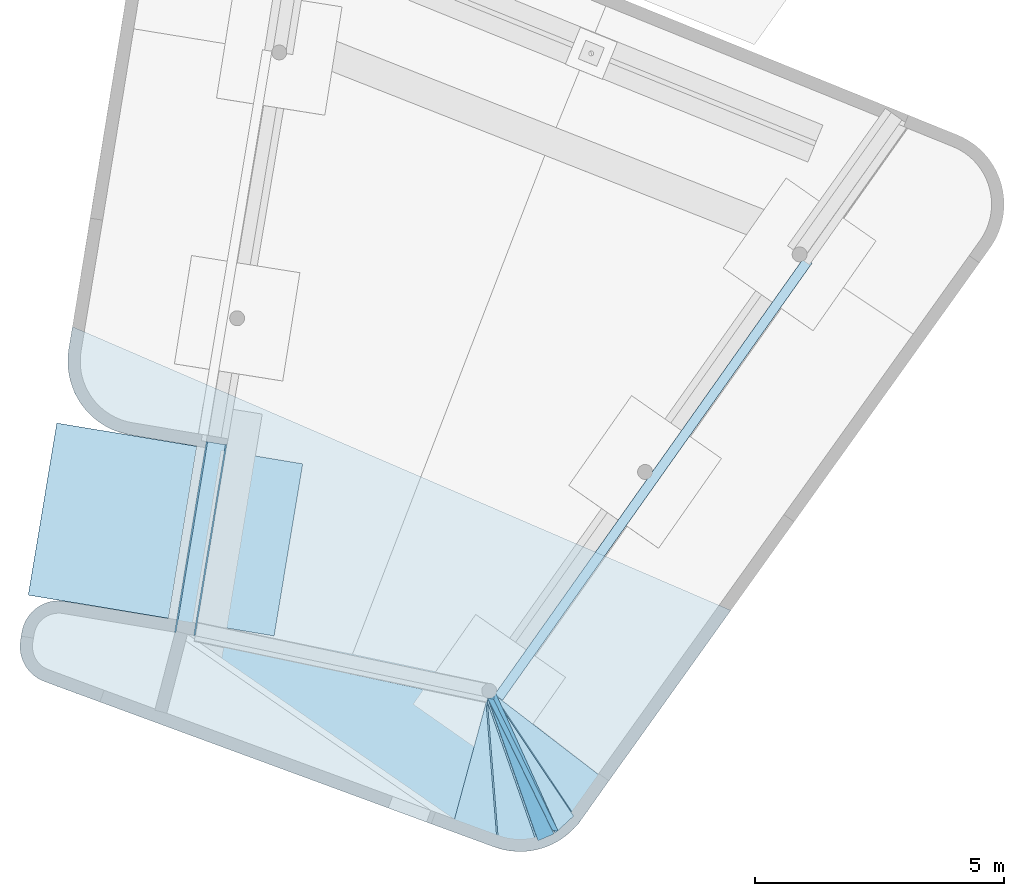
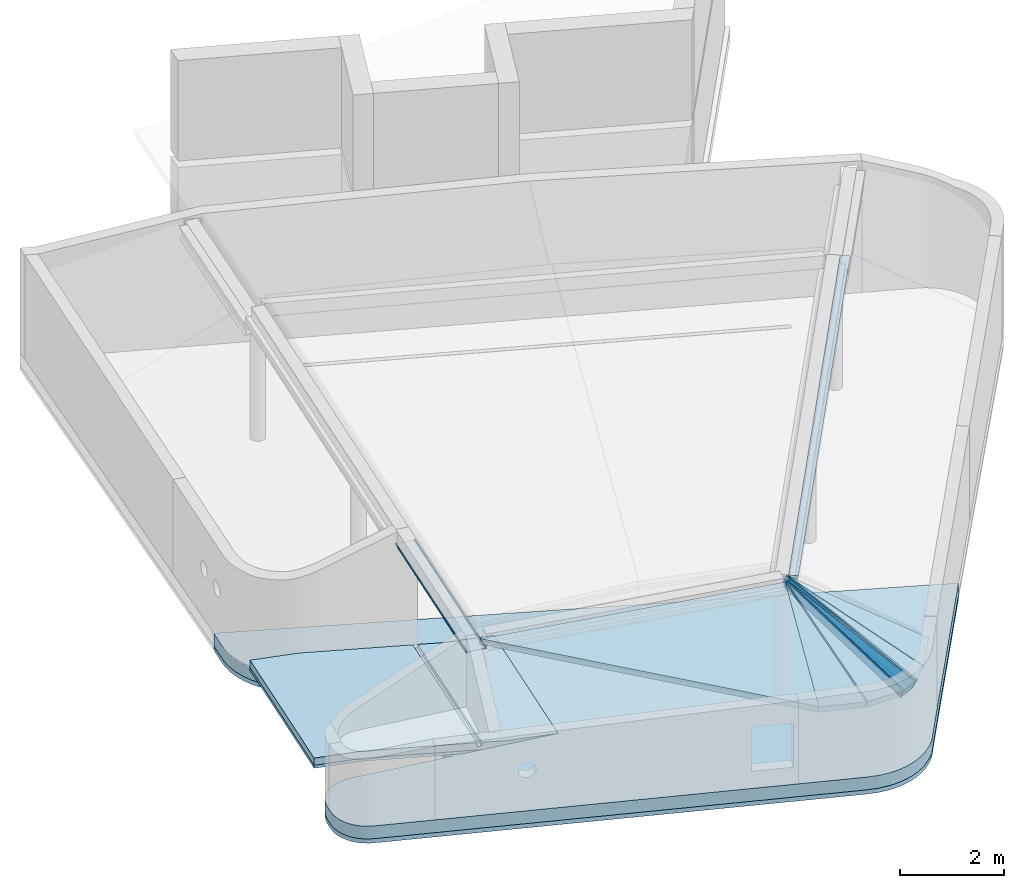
# One storey, part 3 of 8: 9 slabs, 6 plates.
"""IFC2X3 building model written with IfcOpenShell, lengths in millimetres."""

from ifc_helpers import new_model, si_unit, frame, origin_with_axes, place, context, subcontext, project, spatial, faceted_brep, material, type_object, element, save


model = new_model("IFC2X3")

# Units and contexts
model_context = context("Model", 3, precision=1e-05, world=origin_with_axes())
body_context = subcontext(model_context, "Body", "Model", "MODEL_VIEW")
ifc_project = project(units=[si_unit("LENGTHUNIT", "METRE", prefix="MILLI"), si_unit("AREAUNIT", "SQUARE_METRE"), si_unit("VOLUMEUNIT", "CUBIC_METRE"), si_unit("MASSUNIT", "GRAM", prefix="KILO"), si_unit("TIMEUNIT", "SECOND"), si_unit("PLANEANGLEUNIT", "RADIAN"), si_unit("SOLIDANGLEUNIT", "STERADIAN"), si_unit("THERMODYNAMICTEMPERATUREUNIT", "DEGREE_CELSIUS"), si_unit("LUMINOUSINTENSITYUNIT", "LUMEN")], contexts=[model_context])

# Site, building, storey
site_placement = place(None, origin_with_axes())
site = spatial("IfcSite", under=ifc_project, at=site_placement, Name="Site", CompositionType="ELEMENT")
building_placement = place(site_placement, origin_with_axes())
building = spatial("IfcBuilding", under=site, at=building_placement, Name="Undefined", CompositionType="ELEMENT")
storey_placement = place(building_placement, origin_with_axes())
storey = spatial("IfcBuildingStorey", under=building, at=storey_placement, Name="Undefined", CompositionType="ELEMENT", Elevation=0.0)

# Plate
ifc_material_1 = material(Name="MISCELLANEOUS/XPS")
plate_type_1 = type_object("IfcPlateType", Name="100*6761", PredefinedType="NOTDEFINED")
plate_1_placement = place(storey_placement, frame((38155.5776177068, 41014.9212579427, 36500.0), z_axis=(0.345299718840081, 0.938492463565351, 0.0), x_axis=(0.938492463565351, -0.34529971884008, 0.0)))
element("IfcPlate", 1, at=plate_1_placement, inside=storey, type_object=plate_type_1, material=ifc_material_1, Name="ISOLASJON", ObjectType="100*6761", context=body_context, shape_type="Brep", body=[
    faceted_brep([(-7.27595761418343e-12, -50.0, -7.27595761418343e-12), (-163.341674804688, -50.0, 4.32671833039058), (-163.341674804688, 50.0, 4.32671833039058), (-7.27595761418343e-12, 50.0, -7.27595761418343e-12), (-199.946350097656, -50.0, 9.8084659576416), (-199.946350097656, 50.0, 9.8084659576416), (-272.437042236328, -50.0, 24.3537750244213), (-272.437042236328, 50.0, 24.3537750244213), (-299.627868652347, -50.0, 31.2212467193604), (-299.627868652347, 50.0, 31.2212467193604), (-343.140716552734, -50.0, 45.9744186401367), (-343.140716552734, 50.0, 45.9744186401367), (-377.958404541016, -50.0, 58.5314979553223), (-377.958404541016, 50.0, 58.5314979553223), (-411.368621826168, -50.0, 74.459770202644), (-411.368621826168, 50.0, 74.459770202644), (-466.586212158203, -50.0, 103.567413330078), (-466.586212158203, 50.0, 103.567413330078), (-492.261535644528, -50.0, 119.084411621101), (-492.261535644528, 50.0, 119.084411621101), (-530.056518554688, -50.0, 145.079803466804), (-530.056518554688, 50.0, 145.079803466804), (-554.0771484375, -50.0, 163.052307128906), (-554.0771484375, 50.0, 163.052307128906), (-581.900695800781, -50.0, 186.289489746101), (-581.900695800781, 50.0, 186.289489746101), (-609.206115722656, -50.0, 211.276794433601), (-609.206115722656, 50.0, 211.276794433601), (-636.755981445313, -50.0, 239.43826293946), (-636.755981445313, 50.0, 239.43826293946), (-663.459289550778, -50.0, 269.219665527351), (-663.459289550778, 50.0, 269.219665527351), (-680.168701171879, -50.0, 290.03787231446), (-680.168701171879, 50.0, 290.03787231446), (-703.806091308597, -50.0, 322.306640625), (-703.806091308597, 50.0, 322.306640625), (-734.000488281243, -50.0, 369.701324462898), (-734.000488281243, 50.0, 369.701324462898), (-758.72985839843, -50.0, 414.292144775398), (-758.72985839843, 50.0, 414.292144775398), (-784.0, -50.0, 468.71105957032), (-784.0, 50.0, 468.71105957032), (-808.406860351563, -50.0, 538.597534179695), (-808.406860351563, 50.0, 538.597534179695), (-833.75531005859, -50.0, 652.364257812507), (-833.75531005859, 50.0, 652.364257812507), (-841.705383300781, -50.0, 694.178955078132), (-841.705383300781, 50.0, 694.178955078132), (-862.676818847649, -50.0, 814.150268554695), (-862.676818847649, 50.0, 814.150268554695), (-870.757019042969, -50.0, 924.137878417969), (-870.757019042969, 50.0, 924.137878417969), (-860.8154296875, -50.0, 1033.97290039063), (-860.8154296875, 50.0, 1033.97290039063), (-836.62005615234, -50.0, 1141.56994628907), (-836.62005615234, 50.0, 1141.56994628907), (-795.22314453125, -50.0, 1243.78967285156), (-795.22314453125, 50.0, 1243.78967285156), (-740.835815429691, -50.0, 1339.73022460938), (-740.835815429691, 50.0, 1339.73022460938), (-699.612792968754, -50.0, 1394.34045410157), (-699.612792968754, 50.0, 1394.34045410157), (-619.12896728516, -50.0, 1477.07080078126), (-619.12896728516, 50.0, 1477.07080078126), (-532.166748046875, -50.0, 1544.89514160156), (-532.166748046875, 50.0, 1544.89514160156), (-468.718566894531, -50.0, 1582.19799804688), (-468.718566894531, 50.0, 1582.19799804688), (-391.407928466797, -50.0, 1616.76330566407), (-391.407928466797, 50.0, 1616.76330566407), (-306.389129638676, -50.0, 1643.59289550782), (-306.389129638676, 50.0, 1643.59289550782), (1801.06469726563, -50.0, 2046.60803222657), (1801.06469726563, 50.0, 2046.60803222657), (1140.45141601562, -50.0, 5485.40039062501), (1140.45141601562, 50.0, 5485.40039062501), (-186.642105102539, -50.0, 5236.67431640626), (-186.642105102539, 50.0, 5236.67431640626), (-502.679016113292, -50.0, 5211.41064453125), (-502.679016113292, 50.0, 5211.41064453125), (-609.311401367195, -50.0, 5218.18115234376), (-609.311401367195, 50.0, 5218.18115234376), (-715.191284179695, -50.0, 5232.52587890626), (-715.191284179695, 50.0, 5232.52587890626), (-819.781372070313, -50.0, 5254.37109375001), (-819.781372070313, 50.0, 5254.37109375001), (-972.765014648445, -50.0, 5301.8447265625), (-972.765014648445, 50.0, 5301.8447265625), (-1071.76721191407, -50.0, 5341.849609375), (-1071.76721191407, 50.0, 5341.849609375), (-1214.78527832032, -50.0, 5413.98535156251), (-1214.78527832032, 50.0, 5413.98535156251), (-1348.25146484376, -50.0, 5502.55468750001), (-1348.25146484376, 50.0, 5502.55468750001), (-1391.31237792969, -50.0, 5534.17480468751), (-1391.31237792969, 50.0, 5534.17480468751), (-1505.21350097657, -50.0, 5631.90380859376), (-1505.21350097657, 50.0, 5631.90380859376), (-1628.1298828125, -50.0, 5769.27783203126), (-1628.1298828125, 50.0, 5769.27783203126), (-1743.25891113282, -50.0, 5932.49072265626), (-1743.25891113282, 50.0, 5932.49072265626), (-1818.10473632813, -50.0, 6074.109375), (-1818.10473632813, 50.0, 6074.109375), (-1859.98767089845, -50.0, 6172.33154296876), (-1859.98767089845, 50.0, 6172.33154296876), (-1894.7723388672, -50.0, 6273.28662109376), (-1894.7723388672, 50.0, 6273.28662109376), (-1916.25646972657, -50.0, 6350.12792968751), (-1916.25646972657, 50.0, 6350.12792968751), (-1934.19848632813, -50.0, 6428.53857421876), (-1934.19848632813, 50.0, 6428.53857421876), (-1953.01794433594, -50.0, 6526.75195312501), (-1953.01794433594, 50.0, 6526.75195312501), (-1973.71936035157, -50.0, 6634.78662109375), (-1973.71936035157, 50.0, 6634.78662109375), (-2001.94860839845, -50.0, 6782.1064453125), (-2001.94860839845, 50.0, 6782.1064453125), (-2019.97338867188, -50.0, 6876.18896484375), (-2019.97338867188, 50.0, 6876.18896484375), (12342.552734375, -50.0, 6097.06982421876), (12342.552734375, 50.0, 6097.06982421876), (11227.26171875, -50.0, 2040.97021484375), (11227.26171875, 50.0, 2040.97021484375), (10943.5146484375, -50.0, 997.724304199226), (10943.5146484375, 50.0, 997.724304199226), (10869.1162109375, -50.0, 835.118225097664), (10869.1162109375, 50.0, 835.118225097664), (10739.6298828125, -50.0, 619.394165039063), (10739.6298828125, 50.0, 619.394165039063), (10657.4736328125, -50.0, 517.097595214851), (10657.4736328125, 50.0, 517.097595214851), (10554.814453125, -50.0, 410.59402465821), (10554.814453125, 50.0, 410.59402465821), (10437.0244140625, -50.0, 309.155700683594), (10437.0244140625, 50.0, 309.155700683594), (10301.8408203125, -50.0, 218.157852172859), (10301.8408203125, 50.0, 218.157852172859), (10158.5078125, -50.0, 140.634307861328), (10158.5078125, 50.0, 140.634307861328), (9990.865234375, -50.0, 75.5163955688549), (9990.865234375, 50.0, 75.5163955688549), (9743.28515625, -50.0, 16.5120201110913), (9743.28515625, 50.0, 16.5120201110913), (9494.451171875, -50.0, 0.645655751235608), (9494.451171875, 50.0, 0.645655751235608), (8178.80468750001, -50.0, -1.72440195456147e-09), (8178.80468750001, 50.0, -1.72440195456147e-09)], [[[0, 1, 2, 3]], [[1, 4, 5, 2]], [[4, 6, 7, 5]], [[6, 8, 9, 7]], [[8, 10, 11, 9]], [[10, 12, 13, 11]], [[12, 14, 15, 13]], [[14, 16, 17, 15]], [[16, 18, 19, 17]], [[18, 20, 21, 19]], [[20, 22, 23, 21]], [[22, 24, 25, 23]], [[24, 26, 27, 25]], [[26, 28, 29, 27]], [[28, 30, 31, 29]], [[30, 32, 33, 31]], [[32, 34, 35, 33]], [[34, 36, 37, 35]], [[36, 38, 39, 37]], [[38, 40, 41, 39]], [[40, 42, 43, 41]], [[42, 44, 45, 43]], [[44, 46, 47, 45]], [[46, 48, 49, 47]], [[48, 50, 51, 49]], [[50, 52, 53, 51]], [[52, 54, 55, 53]], [[54, 56, 57, 55]], [[56, 58, 59, 57]], [[58, 60, 61, 59]], [[60, 62, 63, 61]], [[62, 64, 65, 63]], [[64, 66, 67, 65]], [[66, 68, 69, 67]], [[68, 70, 71, 69]], [[70, 72, 73, 71]], [[72, 74, 75, 73]], [[74, 76, 77, 75]], [[76, 78, 79, 77]], [[78, 80, 81, 79]], [[80, 82, 83, 81]], [[82, 84, 85, 83]], [[84, 86, 87, 85]], [[86, 88, 89, 87]], [[88, 90, 91, 89]], [[90, 92, 93, 91]], [[92, 94, 95, 93]], [[94, 96, 97, 95]], [[96, 98, 99, 97]], [[98, 100, 101, 99]], [[100, 102, 103, 101]], [[102, 104, 105, 103]], [[104, 106, 107, 105]], [[106, 108, 109, 107]], [[108, 110, 111, 109]], [[110, 112, 113, 111]], [[112, 114, 115, 113]], [[114, 116, 117, 115]], [[116, 118, 119, 117]], [[118, 120, 121, 119]], [[120, 122, 123, 121]], [[122, 124, 125, 123]], [[124, 126, 127, 125]], [[126, 128, 129, 127]], [[128, 130, 131, 129]], [[130, 132, 133, 131]], [[132, 134, 135, 133]], [[134, 136, 137, 135]], [[136, 138, 139, 137]], [[138, 140, 141, 139]], [[140, 142, 143, 141]], [[142, 144, 145, 143]], [[144, 146, 147, 145]], [[146, 0, 3, 147]], [[5, 7, 9, 11, 13, 15, 17, 19, 21, 23, 25, 27, 29, 31, 33, 35, 37, 39, 41, 43, 45, 47, 49, 51, 53, 55, 57, 59, 61, 63, 65, 67, 69, 71, 73, 75, 77, 79, 81, 83, 85, 87, 89, 91, 93, 95, 97, 99, 101, 103, 105, 107, 109, 111, 113, 115, 117, 119, 121, 123, 125, 127, 129, 131, 133, 135, 137, 139, 141, 143, 145, 147, 3, 2]], [[146, 144, 142, 140, 138, 136, 134, 132, 130, 128, 126, 124, 122, 120, 118, 116, 114, 112, 110, 108, 106, 104, 102, 100, 98, 96, 94, 92, 90, 88, 86, 84, 82, 80, 78, 76, 74, 72, 70, 68, 66, 64, 62, 60, 58, 56, 54, 52, 50, 48, 46, 44, 42, 40, 38, 36, 34, 32, 30, 28, 26, 24, 22, 20, 18, 16, 14, 12, 10, 8, 6, 4, 1, 0]]]),
])

# Slab
ifc_material_2 = material(Name="CONCRETE/C45/55")
slab_type_1 = type_object("IfcSlabType", Name="300*6761", PredefinedType="NOTDEFINED")
slab_1_placement = place(storey_placement, frame((38155.5776177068, 41014.9212579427, 36700.0), z_axis=(0.345299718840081, 0.938492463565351, 0.0), x_axis=(0.938492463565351, -0.34529971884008, 0.0)))
element("IfcSlab", 2, at=slab_1_placement, inside=storey, type_object=slab_type_1, material=ifc_material_2, Name="PLASSTØPTFUNDAMENT", ObjectType="300*6761", PredefinedType="FLOOR", context=body_context, shape_type="Brep", body=[
    faceted_brep([(7.27595761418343e-12, -150.0, 7.27595761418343e-12), (-163.341674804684, -150.0, 4.3267183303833), (-163.341674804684, 150.0, 4.3267183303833), (7.27595761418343e-12, 150.0, 7.27595761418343e-12), (-199.946350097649, -150.0, 9.80846595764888), (-199.946350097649, 150.0, 9.80846595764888), (-272.437042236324, -150.0, 24.3537750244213), (-272.437042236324, 150.0, 24.3537750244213), (-299.627868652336, -150.0, 31.2212467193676), (-299.627868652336, 150.0, 31.2212467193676), (-343.140716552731, -150.0, 45.9744186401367), (-343.140716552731, 150.0, 45.9744186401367), (-377.958404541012, -150.0, 58.5314979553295), (-377.958404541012, 150.0, 58.5314979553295), (-411.368621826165, -150.0, 74.459770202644), (-411.368621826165, 150.0, 74.459770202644), (-466.586212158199, -150.0, 103.567413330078), (-466.586212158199, 150.0, 103.567413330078), (-492.261535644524, -150.0, 119.084411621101), (-492.261535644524, 150.0, 119.084411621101), (-530.056518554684, -150.0, 145.079803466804), (-530.056518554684, 150.0, 145.079803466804), (-554.077148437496, -150.0, 163.052307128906), (-554.077148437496, 150.0, 163.052307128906), (-581.900695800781, -150.0, 186.289489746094), (-581.900695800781, 150.0, 186.289489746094), (-609.206115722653, -150.0, 211.276794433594), (-609.206115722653, 150.0, 211.276794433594), (-636.755981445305, -150.0, 239.43826293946), (-636.755981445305, 150.0, 239.43826293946), (-663.459289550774, -150.0, 269.219665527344), (-663.459289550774, 150.0, 269.219665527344), (-680.168701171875, -150.0, 290.037872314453), (-680.168701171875, 150.0, 290.037872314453), (-703.806091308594, -150.0, 322.306640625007), (-703.806091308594, 150.0, 322.306640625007), (-734.00048828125, -150.0, 369.701324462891), (-734.00048828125, 150.0, 369.701324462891), (-758.72985839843, -150.0, 414.292144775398), (-758.72985839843, 150.0, 414.292144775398), (-783.999999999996, -150.0, 468.71105957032), (-783.999999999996, 150.0, 468.71105957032), (-808.406860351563, -150.0, 538.597534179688), (-808.406860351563, 150.0, 538.597534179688), (-833.755310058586, -150.0, 652.3642578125), (-833.755310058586, 150.0, 652.3642578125), (-841.705383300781, -150.0, 694.178955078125), (-841.705383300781, 150.0, 694.178955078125), (-862.676818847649, -150.0, 814.150268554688), (-862.676818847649, 150.0, 814.150268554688), (-870.757019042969, -150.0, 924.137878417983), (-870.757019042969, 150.0, 924.137878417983), (-860.815429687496, -150.0, 1033.97290039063), (-860.815429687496, 150.0, 1033.97290039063), (-836.620056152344, -150.0, 1141.56994628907), (-836.620056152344, 150.0, 1141.56994628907), (-795.223144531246, -150.0, 1243.78967285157), (-795.223144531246, 150.0, 1243.78967285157), (-740.835815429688, -150.0, 1339.73022460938), (-740.835815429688, 150.0, 1339.73022460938), (-699.61279296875, -150.0, 1394.34045410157), (-699.61279296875, 150.0, 1394.34045410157), (-619.128967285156, -150.0, 1477.07080078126), (-619.128967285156, 150.0, 1477.07080078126), (-532.166748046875, -150.0, 1544.89514160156), (-532.166748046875, 150.0, 1544.89514160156), (-468.718566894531, -150.0, 1582.19799804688), (-468.718566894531, 150.0, 1582.19799804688), (-391.407928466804, -150.0, 1616.76330566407), (-391.407928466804, 150.0, 1616.76330566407), (-306.389129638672, -150.0, 1643.59289550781), (-306.389129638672, 150.0, 1643.59289550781), (1801.06799316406, -150.0, 2046.61193847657), (1801.06799316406, 150.0, 2046.61193847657), (1140.44824218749, -150.0, 5485.39892578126), (1140.44824218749, 150.0, 5485.39892578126), (-186.642105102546, -150.0, 5236.67431640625), (-186.642105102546, 150.0, 5236.67431640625), (-502.679016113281, -150.0, 5211.41064453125), (-502.679016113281, 150.0, 5211.41064453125), (-609.311401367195, -150.0, 5218.18115234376), (-609.311401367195, 150.0, 5218.18115234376), (-715.191284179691, -150.0, 5232.52587890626), (-715.191284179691, 150.0, 5232.52587890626), (-819.781372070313, -150.0, 5254.37109375), (-819.781372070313, 150.0, 5254.37109375), (-972.765014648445, -150.0, 5301.84472656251), (-972.765014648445, 150.0, 5301.84472656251), (-1071.76721191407, -150.0, 5341.84960937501), (-1071.76721191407, 150.0, 5341.84960937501), (-1214.78527832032, -150.0, 5413.9853515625), (-1214.78527832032, 150.0, 5413.9853515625), (-1348.25146484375, -150.0, 5502.5546875), (-1348.25146484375, 150.0, 5502.5546875), (-1391.31237792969, -150.0, 5534.17480468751), (-1391.31237792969, 150.0, 5534.17480468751), (-1505.21350097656, -150.0, 5631.90380859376), (-1505.21350097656, 150.0, 5631.90380859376), (-1628.12988281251, -150.0, 5769.27783203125), (-1628.12988281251, 150.0, 5769.27783203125), (-1743.25891113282, -150.0, 5932.49072265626), (-1743.25891113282, 150.0, 5932.49072265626), (-1818.10473632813, -150.0, 6074.10937500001), (-1818.10473632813, 150.0, 6074.10937500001), (-1859.98767089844, -150.0, 6172.33154296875), (-1859.98767089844, 150.0, 6172.33154296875), (-1894.77233886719, -150.0, 6273.28662109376), (-1894.77233886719, 150.0, 6273.28662109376), (-1916.25646972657, -150.0, 6350.1279296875), (-1916.25646972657, 150.0, 6350.1279296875), (-1934.19848632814, -150.0, 6428.53857421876), (-1934.19848632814, 150.0, 6428.53857421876), (-1953.01794433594, -150.0, 6526.751953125), (-1953.01794433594, 150.0, 6526.751953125), (-1973.71936035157, -150.0, 6634.78662109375), (-1973.71936035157, 150.0, 6634.78662109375), (-2001.94860839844, -150.0, 6782.10644531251), (-2001.94860839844, 150.0, 6782.10644531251), (-2019.97338867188, -150.0, 6876.18896484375), (-2019.97338867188, 150.0, 6876.18896484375), (12342.552734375, -150.0, 6097.06982421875), (12342.552734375, 150.0, 6097.06982421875), (11227.26171875, -150.0, 2040.97021484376), (11227.26171875, 150.0, 2040.97021484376), (10943.5146484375, -150.0, 997.724304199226), (10943.5146484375, 150.0, 997.724304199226), (10869.1162109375, -150.0, 835.118225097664), (10869.1162109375, 150.0, 835.118225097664), (10739.6298828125, -150.0, 619.394165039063), (10739.6298828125, 150.0, 619.394165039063), (10657.4736328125, -150.0, 517.097595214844), (10657.4736328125, 150.0, 517.097595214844), (10554.814453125, -150.0, 410.59402465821), (10554.814453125, 150.0, 410.59402465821), (10437.0244140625, -150.0, 309.155700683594), (10437.0244140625, 150.0, 309.155700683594), (10301.8408203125, -150.0, 218.157852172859), (10301.8408203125, 150.0, 218.157852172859), (10158.5078125, -150.0, 140.634307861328), (10158.5078125, 150.0, 140.634307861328), (9990.86523437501, -150.0, 75.5163955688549), (9990.86523437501, 150.0, 75.5163955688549), (9743.28515625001, -150.0, 16.512020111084), (9743.28515625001, 150.0, 16.512020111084), (9494.45117187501, -150.0, 0.645655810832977), (9494.45117187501, 150.0, 0.645655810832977), (8178.80468750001, -150.0, 2.01980583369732e-08), (8178.80468750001, 150.0, 2.01980583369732e-08)], [[[0, 1, 2, 3]], [[1, 4, 5, 2]], [[4, 6, 7, 5]], [[6, 8, 9, 7]], [[8, 10, 11, 9]], [[10, 12, 13, 11]], [[12, 14, 15, 13]], [[14, 16, 17, 15]], [[16, 18, 19, 17]], [[18, 20, 21, 19]], [[20, 22, 23, 21]], [[22, 24, 25, 23]], [[24, 26, 27, 25]], [[26, 28, 29, 27]], [[28, 30, 31, 29]], [[30, 32, 33, 31]], [[32, 34, 35, 33]], [[34, 36, 37, 35]], [[36, 38, 39, 37]], [[38, 40, 41, 39]], [[40, 42, 43, 41]], [[42, 44, 45, 43]], [[44, 46, 47, 45]], [[46, 48, 49, 47]], [[48, 50, 51, 49]], [[50, 52, 53, 51]], [[52, 54, 55, 53]], [[54, 56, 57, 55]], [[56, 58, 59, 57]], [[58, 60, 61, 59]], [[60, 62, 63, 61]], [[62, 64, 65, 63]], [[64, 66, 67, 65]], [[66, 68, 69, 67]], [[68, 70, 71, 69]], [[70, 72, 73, 71]], [[72, 74, 75, 73]], [[74, 76, 77, 75]], [[76, 78, 79, 77]], [[78, 80, 81, 79]], [[80, 82, 83, 81]], [[82, 84, 85, 83]], [[84, 86, 87, 85]], [[86, 88, 89, 87]], [[88, 90, 91, 89]], [[90, 92, 93, 91]], [[92, 94, 95, 93]], [[94, 96, 97, 95]], [[96, 98, 99, 97]], [[98, 100, 101, 99]], [[100, 102, 103, 101]], [[102, 104, 105, 103]], [[104, 106, 107, 105]], [[106, 108, 109, 107]], [[108, 110, 111, 109]], [[110, 112, 113, 111]], [[112, 114, 115, 113]], [[114, 116, 117, 115]], [[116, 118, 119, 117]], [[118, 120, 121, 119]], [[120, 122, 123, 121]], [[122, 124, 125, 123]], [[124, 126, 127, 125]], [[126, 128, 129, 127]], [[128, 130, 131, 129]], [[130, 132, 133, 131]], [[132, 134, 135, 133]], [[134, 136, 137, 135]], [[136, 138, 139, 137]], [[138, 140, 141, 139]], [[140, 142, 143, 141]], [[142, 144, 145, 143]], [[144, 146, 147, 145]], [[146, 0, 3, 147]], [[5, 7, 9, 11, 13, 15, 17, 19, 21, 23, 25, 27, 29, 31, 33, 35, 37, 39, 41, 43, 45, 47, 49, 51, 53, 55, 57, 59, 61, 63, 65, 67, 69, 71, 73, 75, 77, 79, 81, 83, 85, 87, 89, 91, 93, 95, 97, 99, 101, 103, 105, 107, 109, 111, 113, 115, 117, 119, 121, 123, 125, 127, 129, 131, 133, 135, 137, 139, 141, 143, 145, 147, 3, 2]], [[146, 144, 142, 140, 138, 136, 134, 132, 130, 128, 126, 124, 122, 120, 118, 116, 114, 112, 110, 108, 106, 104, 102, 100, 98, 96, 94, 92, 90, 88, 86, 84, 82, 80, 78, 76, 74, 72, 70, 68, 66, 64, 62, 60, 58, 56, 54, 52, 50, 48, 46, 44, 42, 40, 38, 36, 34, 32, 30, 28, 26, 24, 22, 20, 18, 16, 14, 12, 10, 8, 6, 4, 1, 0]]]),
])

# Plate
plate_type_2 = type_object("IfcPlateType", Name="100*3443", PredefinedType="NOTDEFINED")
plate_2_placement = place(storey_placement, frame((37747.3920751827, 42779.9081158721, 36830.3337292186), z_axis=(0.163788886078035, 0.986495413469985, 2.00000067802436e-09), x_axis=(0.986495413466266, -0.163788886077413, -2.74599999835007e-06)))
element("IfcPlate", 3, at=plate_2_placement, inside=storey, type_object=plate_type_2, material=ifc_material_1, Name="ISOLASJON", ObjectType="100*3443", context=body_context, shape_type="Brep", body=[
    faceted_brep([(2838.73020856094, -119.67406593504, 8.58562998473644e-10), (2410.16616698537, -119.672889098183, 7.42147676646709e-10), (2410.16580643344, -119.672889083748, 6.72384946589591), (2838.72996702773, -119.674065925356, 4.50965810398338), (3328.51808668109, 30.3245891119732, 1.97915289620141), (3442.76018382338, 30.3242754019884, 1.388917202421), (3442.7600428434, -21.0158475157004, 1.38891730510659), (3431.13065907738, -22.8847006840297, 3499.91842548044), (3433.32754542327, -22.5316591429, 2839.0173956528), (3431.13080518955, 30.3243143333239, 3499.91842530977), (1000.0, -350.000000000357, 3.71073838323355e-10), (999.812500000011, -350.000000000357, 3499.7919921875), (3328.33073881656, 30.3245966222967, 3499.91307944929), (3328.37252291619, 30.3245949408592, 2716.56403534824), (3.63797880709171e-12, -430.000000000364, 0.0), (1000.00000000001, -419.999999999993, 3.71073838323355e-10), (0.0, -499.999999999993, 0.0), (999.812500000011, -420.0, 3499.79199218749), (-0.187446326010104, -499.999999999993, 3499.73999023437), (-0.187446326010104, -430.000000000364, 3499.73999023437)], [[[0, 1, 2, 3]], [[3, 2, 4, 5, 6]], [[7, 8, 6, 5, 9]], [[10, 11, 12, 13]], [[14, 11, 10]], [[15, 16, 14, 10]], [[16, 15, 17]], [[18, 16, 17]], [[16, 18, 19, 14]], [[11, 14, 19]], [[18, 17, 11, 19]], [[12, 11, 17, 7, 9]], [[4, 13, 12, 9, 5]], [[1, 10, 13, 4, 2]], [[15, 10, 1, 0]], [[15, 0, 3, 6, 8]], [[17, 15, 8, 7]]]),
])

# Slabs
slab_type_2 = type_object("IfcSlabType", Name="200*5000", PredefinedType="NOTDEFINED")
slab_2_placement = place(storey_placement, frame((37747.3922106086, 42779.9080932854, 36950.3337292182), z_axis=(0.163788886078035, 0.986495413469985, 2.00000067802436e-09), x_axis=(0.986495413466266, -0.163788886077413, -2.74599999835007e-06)))
element("IfcSlab", 4, at=slab_2_placement, inside=storey, type_object=slab_type_2, material=ifc_material_2, Name="GULVPÅGRUNN", ObjectType="200*5000", PredefinedType="FLOOR", context=body_context, shape_type="Brep", body=[
    faceted_brep([(3336.48138836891, -88.3440815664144, 3499.91350353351), (3336.52283541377, -88.3440833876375, 2726.07318630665), (3336.66883547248, -88.3440902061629, 1.04773789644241e-09), (3336.66910566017, 10.0608374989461, 0.168136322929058), (3336.4816588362, 10.0608380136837, 3499.9081265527), (3436.66910551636, 10.0605629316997, 0.173492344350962), (3436.48165869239, 10.0605634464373, 3499.91348257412), (3436.48143335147, -72.01074093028, 3499.91348257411), (3436.66888017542, -72.0107495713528, 1.07684172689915e-09), (3436.51663180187, -72.0107424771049, 2842.73817369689), (5000.0, 100.0, 7.40692485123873e-09), (4000.0, 20.0, 1.23691279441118e-09), (3999.99999999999, 100.0, 1.23691279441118e-09), (5000.0, 100.330000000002, 7.40692485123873e-09), (3999.81249999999, 100.0, 3499.94799804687), (3448.82667005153, 100.0, 2857.10056925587), (3448.79242136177, 100.0, 3499.91934366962), (999.999999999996, -470.0, 4.07453626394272e-10), (-3.63797880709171e-12, -550.0, -7.27595761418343e-12), (0.0, -380.000000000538, -7.27595761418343e-12), (999.999999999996, -300.000000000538, 4.00177668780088e-10), (999.812499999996, -470.0, 3499.7919921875), (-0.187446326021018, -550.0, 3499.73999023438), (999.8125, -300.000000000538, 3499.79199218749), (-0.18744632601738, -380.000000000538, 3499.73999023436), (3448.97992136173, 100.0, 1.08411768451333e-09), (3999.81249999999, 19.9999999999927, 3499.94799804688), (4999.8125, 99.9999999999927, 3500.0), (4999.8125, 100.330000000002, 3500.0)], [[[0, 1, 2, 3, 4]], [[4, 3, 5, 6]], [[7, 6, 5, 8, 9]], [[10, 11, 12, 13]], [[14, 15, 16]], [[17, 18, 19, 20]], [[18, 17, 21]], [[22, 18, 21]], [[22, 21, 23, 24]], [[18, 22, 24, 19]], [[23, 19, 24]], [[19, 23, 20]], [[16, 15, 20, 23]], [[25, 20, 15]], [[14, 12, 25, 15]], [[26, 27, 28, 14]], [[14, 28, 12]], [[13, 12, 28]], [[27, 10, 13, 28]], [[10, 27, 11]], [[26, 11, 27]], [[26, 7, 9]], [[11, 26, 9, 8]], [[3, 2, 17, 20, 25, 12, 11, 8, 5]], [[17, 2, 1]], [[21, 17, 1, 0]], [[26, 14, 16, 23, 21, 0, 4, 6, 7]]]),
])
ifc_material_3 = material(Name="CONCRETE/C35/45")
slab_type_3 = type_object("IfcSlabType", Name="220*99", PredefinedType="NOTDEFINED")
slab_3_placement = place(storey_placement, frame((48321.539481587, 38053.241372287, 38391.2421970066), z_axis=(-0.744512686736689, -0.51999365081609, 0.418697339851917), x_axis=(-0.383322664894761, 0.846436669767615, 0.369606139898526)))
element("IfcSlab", 5, at=slab_3_placement, inside=storey, type_object=slab_type_3, material=ifc_material_3, Name="PLASSTØPTDEKKE", ObjectType="220*99", PredefinedType="FLOOR", context=body_context, shape_type="Brep", body=[
    faceted_brep([(-7.27595761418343e-12, -110.000000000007, 7.27595761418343e-12), (3188.37036126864, -110.000000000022, 99.2659988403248), (3188.37036126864, 109.999999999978, 99.2659988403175), (-1.30739863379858e-12, 110.0, 0.0), (3300.82104492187, -110.000000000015, -5.0495145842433e-09), (3300.82104492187, 109.999999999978, -5.05679054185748e-09)], [[[0, 1, 2, 3]], [[1, 4, 5, 2]], [[4, 0, 3, 5]], [[5, 3, 2]], [[4, 1, 0]]]),
])
slab_type_4 = type_object("IfcSlabType", Name="220*346", PredefinedType="NOTDEFINED")
slab_4_placement = place(storey_placement, frame((48278.0346506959, 38027.1601109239, 38401.6150564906), z_axis=(-0.901158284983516, -0.433134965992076, -0.0175455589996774), x_axis=(-0.406305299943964, 0.829845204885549, 0.382456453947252)))
element("IfcSlab", 6, at=slab_4_placement, inside=storey, type_object=slab_type_4, material=ifc_material_3, Name="PLASSTØPTDEKKE", ObjectType="220*346", PredefinedType="FLOOR", context=body_context, shape_type="Brep", body=[
    faceted_brep([(-7.27595761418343e-12, -110.000000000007, 7.27595761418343e-12), (15.9075182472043, -110.000000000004, 346.604705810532), (15.9075182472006, 109.999999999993, 346.604705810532), (-1.30739863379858e-12, 110.0, 0.0), (3189.91552734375, -110.000000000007, -1.10885594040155e-08), (3189.91552734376, 109.999999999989, -1.10958353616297e-08)], [[[0, 1, 2, 3]], [[1, 4, 5, 2]], [[4, 0, 3, 5]], [[5, 3, 2]], [[4, 1, 0]]]),
])
slab_type_5 = type_object("IfcSlabType", Name="220*483", PredefinedType="NOTDEFINED")
slab_5_placement = place(storey_placement, frame((48661.2797250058, 38378.4375239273, 38401.4421295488), z_axis=(-0.81708343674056, -0.573751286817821, 0.0564279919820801), x_axis=(-0.513106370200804, 0.768345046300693, 0.382580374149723)))
element("IfcSlab", 7, at=slab_5_placement, inside=storey, type_object=slab_type_5, material=ifc_material_3, Name="PLASSTØPTDEKKE", ObjectType="220*483", PredefinedType="FLOOR", context=body_context, shape_type="Brep", body=[
    faceted_brep([(-7.27595761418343e-12, -110.000000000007, 7.27595761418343e-12), (-73.8079374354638, -110.000000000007, 500.343048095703), (-73.8079374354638, 110.0, 500.343048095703), (-1.30739863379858e-12, 110.0, 0.0), (3188.87133789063, -110.000000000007, 5.74800651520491e-10), (3188.87133789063, 109.999999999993, 5.74800651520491e-10)], [[[0, 1, 2, 3]], [[1, 4, 5, 2]], [[4, 0, 3, 5]], [[5, 3, 2]], [[4, 1, 0]]]),
])
slab_type_6 = type_object("IfcSlabType", Name="220*895", PredefinedType="NOTDEFINED")
slab_6_placement = place(storey_placement, frame((49217.7382022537, 39155.9542342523, 38400.5695711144), z_axis=(-0.604189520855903, -0.796724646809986, 0.0135963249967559), x_axis=(-0.725228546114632, 0.556880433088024, 0.404879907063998)))
element("IfcSlab", 8, at=slab_6_placement, inside=storey, type_object=slab_type_6, material=ifc_material_3, Name="PLASSTØPTDEKKE", ObjectType="220*895", PredefinedType="FLOOR", context=body_context, shape_type="Brep", body=[
    faceted_brep([(-7.27595761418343e-12, -110.000000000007, 7.27595761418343e-12), (-31.7975465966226, -110.000000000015, 946.917053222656), (-31.7975465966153, 110.0, 946.917053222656), (-1.30739863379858e-12, 110.0, 0.0), (3013.23925781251, -110.000000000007, 3.82715370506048e-09), (3013.23925781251, 110.0, 3.8198777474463e-09)], [[[0, 1, 2, 3]], [[1, 4, 5, 2]], [[4, 0, 3, 5]], [[5, 3, 2]], [[4, 1, 0]]]),
])
slab_type_7 = type_object("IfcSlabType", Name="220*715", PredefinedType="NOTDEFINED")
slab_7_placement = place(storey_placement, frame((46963.467699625, 40668.2993740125, 39620.4941169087), z_axis=(0.997260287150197, 0.0589167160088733, 0.0447296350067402), x_axis=(0.0719988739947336, -0.9118391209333, -0.404185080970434)))
element("IfcSlab", 9, at=slab_7_placement, inside=storey, type_object=slab_type_7, material=ifc_material_3, Name="PLASSTØPTDEKKE", ObjectType="220*715", PredefinedType="FLOOR", context=body_context, shape_type="Brep", body=[
    faceted_brep([(-7.27595761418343e-12, -110.000000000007, 7.27595761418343e-12), (3102.08520502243, -110.000000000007, 755.995056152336), (3102.08520502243, 110.000000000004, 755.995056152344), (-1.30739863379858e-12, 110.0, 0.0), (3018.42016601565, -110.000000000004, 1.62981450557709e-09), (3018.42016601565, 110.0, 1.62981450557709e-09)], [[[0, 1, 2, 3]], [[1, 4, 5, 2]], [[4, 0, 3, 5]], [[5, 3, 2]], [[4, 1, 0]]]),
])
slab_type_8 = type_object("IfcSlabType", Name="220*861", PredefinedType="NOTDEFINED")
slab_8_placement = place(storey_placement, frame((46948.7469626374, 40667.8338621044, 39618.9220533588), z_axis=(0.960260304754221, -0.276954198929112, 0.0345907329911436), x_axis=(-0.234861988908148, -0.868770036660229, -0.435979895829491)))
element("IfcSlab", 10, at=slab_8_placement, inside=storey, type_object=slab_type_8, material=ifc_material_3, Name="PLASSTØPTDEKKE", ObjectType="220*861", PredefinedType="FLOOR", context=body_context, shape_type="Brep", body=[
    faceted_brep([(-7.27595761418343e-12, -110.000000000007, 7.27595761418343e-12), (2871.98217741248, -110.000000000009, 928.750549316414), (2871.98217741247, 110.000000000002, 928.750549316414), (-1.30739863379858e-12, 110.0, 0.0), (2798.29394531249, -110.000000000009, 7.50151230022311e-09), (2798.2939453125, 109.999999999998, 7.50151230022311e-09)], [[[0, 1, 2, 3]], [[1, 4, 5, 2]], [[4, 0, 3, 5]], [[5, 3, 2]], [[4, 1, 0]]]),
])

# Plates
ifc_material_4 = material(Name="MISCELLANEOUS/Misc_Undefined")
plate_type_3 = type_object("IfcPlateType", Name="20*45", PredefinedType="NOTDEFINED")
for number, where, z_axis, x_axis in (
    (11, (41716.5983215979, 45795.3717817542, 39424.9999997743), (-1.00000033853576e-09, 0.0, -1.0), (-0.163622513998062, -0.986523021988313, 0.0)),
    (12, (41331.854343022, 45859.1845622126, 39425.000000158), (-1.00000033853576e-09, 0.0, -1.0), (-0.163622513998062, -0.986523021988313, 0.0)),
):
    element("IfcPlate", number, at=place(storey_placement, frame(where, z_axis=z_axis, x_axis=x_axis)), inside=storey, type_object=plate_type_3, material=ifc_material_4, Name="BRANNBESKYTTELSE", ObjectType="20*45", context=body_context, shape_type="Brep", body=[
        faceted_brep([(0.0, -10.0000000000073, 0.0), (-7.22502591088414e-09, -10.0000000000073, 45.0), (-7.22502591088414e-09, 10.0, 44.9999999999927), (-7.27595761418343e-12, 9.99999999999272, -7.27595761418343e-12), (3875.26513671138, -10.0000000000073, 45.0), (3875.26513671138, 10.0, 44.9999999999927), (3875.26513671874, -10.0000000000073, 1.25146470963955e-08), (3875.26513671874, 9.99999999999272, 1.25073711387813e-08)], [[[0, 1, 2, 3]], [[1, 4, 5, 2]], [[4, 6, 7, 5]], [[6, 0, 3, 7]], [[5, 7, 3, 2]], [[6, 4, 1, 0]]]),
    ])
plate_type_4 = type_object("IfcPlateType", Name="20*390", PredefinedType="NOTDEFINED")
plate_3_placement = place(storey_placement, frame((41706.7330913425, 45797.0080069, 39389.9999997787), z_axis=(-0.986523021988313, 0.163622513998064, 1.00000033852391e-09), x_axis=(-0.163622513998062, -0.986523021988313, 0.0)))
element("IfcPlate", 13, at=plate_3_placement, inside=storey, type_object=plate_type_4, material=ifc_material_4, Name="BRANNBESKYTTELSE", ObjectType="20*390", context=body_context, shape_type="Brep", body=[
    faceted_brep([(0.0, -10.0000000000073, 0.0), (-7.27595761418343e-12, -10.0000000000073, 389.999999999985), (0.0, 9.99999999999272, 390.0), (-7.27595761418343e-12, 9.99999999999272, -7.27595761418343e-12), (3875.26513671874, -10.0000000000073, 389.999999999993), (3875.26513671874, 9.99999999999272, 389.999999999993), (3875.26513671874, -10.0000000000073, 1.25146470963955e-08), (3875.26513671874, 9.99999999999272, 1.25073711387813e-08)], [[[0, 1, 2, 3]], [[1, 4, 5, 2]], [[4, 6, 7, 5]], [[6, 0, 3, 7]], [[5, 7, 3, 2]], [[6, 4, 1, 0]]]),
])

# Slab
slab_type_9 = type_object("IfcSlabType", Name="220*2593", PredefinedType="NOTDEFINED")
slab_9_placement = place(storey_placement, frame((46955.3348963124, 40666.0300854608, 39618.9674962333), z_axis=(-0.187376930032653, -0.879976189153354, -0.436499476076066), x_axis=(-0.978072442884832, 0.208264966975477, 0.0)))
element("IfcSlab", 14, at=slab_9_placement, inside=storey, type_object=slab_type_9, material=ifc_material_3, Name="PLASSTØPTDEKKE", ObjectType="220*2593", PredefinedType="FLOOR", context=body_context, shape_type="Brep", body=[
    faceted_brep([(-7.27595761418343e-12, -110.000000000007, 7.27595761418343e-12), (136.494278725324, -109.999999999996, 2794.96313476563), (136.494278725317, 109.999999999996, 2794.96313476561), (-1.30739863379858e-12, 110.0, 0.0), (6158.9541015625, -110.0, -1.41735654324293e-08), (6158.9541015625, 110.0, -1.41808413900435e-08)], [[[0, 1, 2, 3]], [[1, 4, 5, 2]], [[4, 0, 3, 5]], [[5, 3, 2]], [[4, 1, 0]]]),
])

# Plate
plate_type_5 = type_object("IfcPlateType", Name="FIRKB197*200*100", PredefinedType="NOTDEFINED")
plate_4_placement = place(storey_placement, frame((47183.4411779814, 40727.1754644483, 39620.0), z_axis=(0.816136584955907, -0.577859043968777, 0.0), x_axis=(0.577858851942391, 0.816136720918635, 0.0)))
element("IfcPlate", 15, at=plate_4_placement, inside=storey, type_object=plate_type_5, material=ifc_material_3, Name="PLASSTØPTDEKKE", ObjectType="FIRKB197*200*100", context=body_context, shape_type="Brep", body=[
    faceted_brep([(7.27595761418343e-12, -100.0, -98.5), (7.27595761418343e-12, 100.0, -98.5), (10745.4528723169, 100.0, -98.5), (10745.4528723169, -100.0, -98.5), (7.27595761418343e-12, 100.0, 98.4999999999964), (10745.4528723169, 100.0, 98.5000000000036), (7.27595761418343e-12, -100.0, 1.50000000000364), (10745.4528723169, -100.0, 1.50000000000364)], [[[0, 1, 2, 3]], [[1, 4, 5, 2]], [[4, 6, 7, 5]], [[6, 0, 3, 7]], [[5, 7, 3, 2]], [[6, 4, 1, 0]]]),
])

save(model, "model.ifc")
